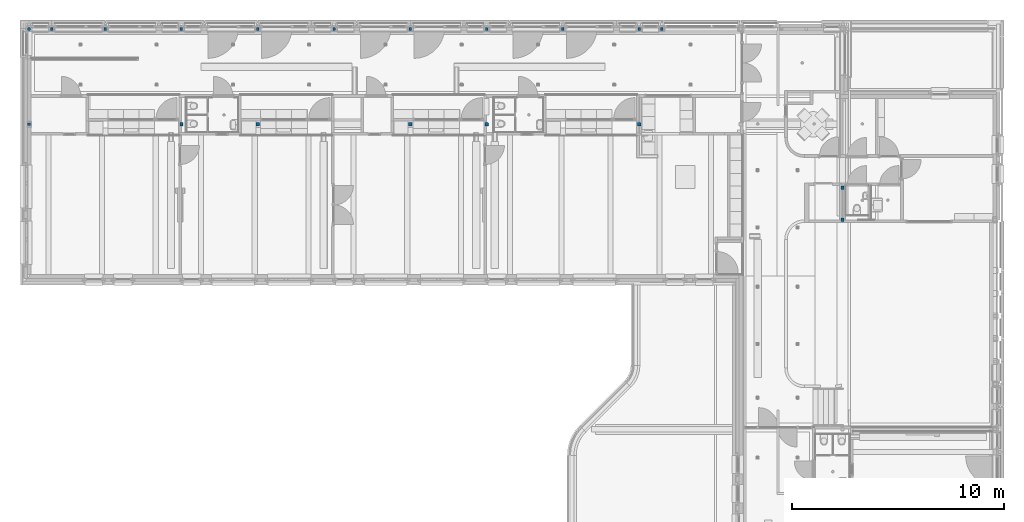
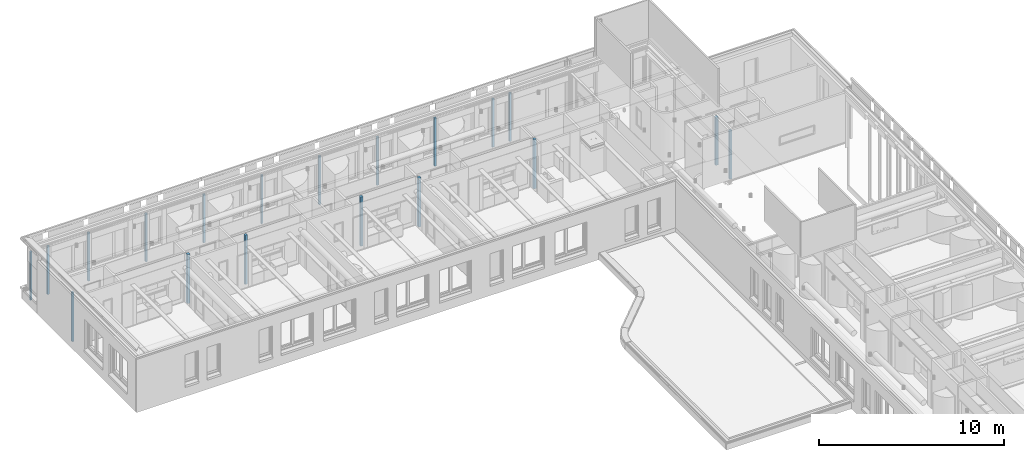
# One storey, part 3 of 128: 20 columns.
"""IFC2X3 building model written with IfcOpenShell, lengths in millimetres."""

from ifc_helpers import new_model, entity, si_unit, converted_unit, derived_unit, direction, frame, frame_2d, origin, place, context, subcontext, project, spatial, polyline, circle_curve, parameter, trimmed, segment, composite_curve, outline, extrude, source, transform, mapped, material, material_list, type_object, type_shapes, element, save


model = new_model("IFC2X3")

# Units and contexts
model_context = context("Model", 3, precision=0.01, world=origin(), true_north=direction((6.123031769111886e-17, 1.0)))
body_context = subcontext(model_context, "Body", "Model", "MODEL_VIEW")
ifc_project = project(units=[si_unit("LENGTHUNIT", "METRE", prefix="MILLI"), si_unit("AREAUNIT", "SQUARE_METRE"), si_unit("VOLUMEUNIT", "CUBIC_METRE"), converted_unit("PLANEANGLEUNIT", "DEGREE", entity("IfcRatioMeasure", 0.017453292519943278), si_unit("PLANEANGLEUNIT", "RADIAN"), dimensions=[0, 0, 0, 0, 0, 0, 0]), si_unit("MASSUNIT", "GRAM", prefix="KILO"), derived_unit("MASSDENSITYUNIT", [(si_unit("MASSUNIT", "GRAM", prefix="KILO"), 1), (si_unit("LENGTHUNIT", "METRE"), -3)]), derived_unit("IONCONCENTRATIONUNIT", [(si_unit("MASSUNIT", "GRAM", prefix="KILO"), 1), (si_unit("LENGTHUNIT", "METRE"), -3)]), derived_unit("MOMENTOFINERTIAUNIT", [(si_unit("LENGTHUNIT", "METRE"), 4)]), si_unit("TIMEUNIT", "SECOND"), si_unit("FREQUENCYUNIT", "HERTZ"), si_unit("THERMODYNAMICTEMPERATUREUNIT", "DEGREE_CELSIUS"), derived_unit("THERMALTRANSMITTANCEUNIT", [(si_unit("MASSUNIT", "GRAM", prefix="KILO"), 1), (si_unit("THERMODYNAMICTEMPERATUREUNIT", "KELVIN"), -1), (si_unit("TIMEUNIT", "SECOND"), -3)]), derived_unit("THERMALCONDUCTANCEUNIT", [(si_unit("MASSUNIT", "GRAM", prefix="KILO"), 1), (si_unit("THERMODYNAMICTEMPERATUREUNIT", "KELVIN"), -1), (si_unit("TIMEUNIT", "SECOND"), -3), (si_unit("LENGTHUNIT", "METRE"), 1)]), derived_unit("VOLUMETRICFLOWRATEUNIT", [(si_unit("LENGTHUNIT", "METRE"), 3), (si_unit("TIMEUNIT", "SECOND"), -1)]), derived_unit("MASSFLOWRATEUNIT", [(si_unit("MASSUNIT", "GRAM", prefix="KILO"), 1), (si_unit("TIMEUNIT", "SECOND"), -1)]), derived_unit("ROTATIONALFREQUENCYUNIT", [(si_unit("TIMEUNIT", "SECOND"), -1)]), si_unit("ELECTRICCURRENTUNIT", "AMPERE"), si_unit("ELECTRICVOLTAGEUNIT", "VOLT"), si_unit("POWERUNIT", "WATT"), si_unit("FORCEUNIT", "NEWTON", prefix="KILO"), si_unit("ILLUMINANCEUNIT", "LUX"), si_unit("LUMINOUSFLUXUNIT", "LUMEN"), si_unit("LUMINOUSINTENSITYUNIT", "CANDELA"), derived_unit("USERDEFINED", [(si_unit("MASSUNIT", "GRAM", prefix="KILO"), -1), (si_unit("LENGTHUNIT", "METRE"), -2), (si_unit("TIMEUNIT", "SECOND"), 3), (si_unit("LUMINOUSFLUXUNIT", "LUMEN"), 1)]), derived_unit("USERDEFINED", [(si_unit("MASSUNIT", "GRAM", prefix="KILO"), 1), (si_unit("TIMEUNIT", "SECOND"), -3), (si_unit("LENGTHUNIT", "METRE"), 3), (si_unit("ELECTRICCURRENTUNIT", "AMPERE"), -2)]), derived_unit("SOUNDPOWERUNIT", [(si_unit("MASSUNIT", "GRAM", prefix="KILO"), 1), (si_unit("TIMEUNIT", "SECOND"), -3), (si_unit("LENGTHUNIT", "METRE"), 2)]), derived_unit("SOUNDPRESSUREUNIT", [(si_unit("MASSUNIT", "GRAM", prefix="KILO"), 1), (si_unit("LENGTHUNIT", "METRE"), -1), (si_unit("TIMEUNIT", "SECOND"), -2)]), derived_unit("LINEARVELOCITYUNIT", [(si_unit("LENGTHUNIT", "METRE"), 1), (si_unit("TIMEUNIT", "SECOND"), -1)]), si_unit("PRESSUREUNIT", "PASCAL"), derived_unit("USERDEFINED", [(si_unit("MASSUNIT", "GRAM", prefix="KILO"), 1), (si_unit("LENGTHUNIT", "METRE"), -2), (si_unit("TIMEUNIT", "SECOND"), -2)]), derived_unit("LINEARFORCEUNIT", [(si_unit("MASSUNIT", "GRAM", prefix="KILO"), 1), (si_unit("TIMEUNIT", "SECOND"), -2)]), derived_unit("PLANARFORCEUNIT", [(si_unit("MASSUNIT", "GRAM", prefix="KILO"), 1), (si_unit("LENGTHUNIT", "METRE"), -1), (si_unit("TIMEUNIT", "SECOND"), -2)]), derived_unit("SPECIFICHEATCAPACITYUNIT", [(si_unit("THERMODYNAMICTEMPERATUREUNIT", "KELVIN"), -1), (si_unit("LENGTHUNIT", "METRE"), 2), (si_unit("TIMEUNIT", "SECOND"), -2)]), derived_unit("HEATINGVALUEUNIT", [(si_unit("LENGTHUNIT", "METRE"), 2), (si_unit("TIMEUNIT", "SECOND"), -2)]), derived_unit("VAPORPERMEABILITYUNIT", [(si_unit("LENGTHUNIT", "METRE"), -1), (si_unit("TIMEUNIT", "SECOND"), 1)]), derived_unit("DYNAMICVISCOSITYUNIT", [(si_unit("MASSUNIT", "GRAM", prefix="KILO"), 1), (si_unit("TIMEUNIT", "SECOND"), -1), (si_unit("LENGTHUNIT", "METRE"), -1)]), derived_unit("THERMALEXPANSIONCOEFFICIENTUNIT", [(si_unit("THERMODYNAMICTEMPERATUREUNIT", "KELVIN"), -1)]), derived_unit("MODULUSOFELASTICITYUNIT", [(si_unit("MASSUNIT", "GRAM", prefix="KILO"), 1), (si_unit("LENGTHUNIT", "METRE"), -1), (si_unit("TIMEUNIT", "SECOND"), -2)]), derived_unit("ISOTHERMALMOISTURECAPACITYUNIT", [(si_unit("LENGTHUNIT", "METRE"), 3), (si_unit("MASSUNIT", "GRAM", prefix="KILO"), -1)]), derived_unit("MOISTUREDIFFUSIVITYUNIT", [(si_unit("TIMEUNIT", "SECOND"), -1), (si_unit("LENGTHUNIT", "METRE"), 2)])], contexts=[model_context])

# Site, building, storey
site_placement = place(None, frame((0.0, 300.0, 0.0)))
site = spatial("IfcSite", under=ifc_project, at=site_placement, Name="<Kadastrale nummers>", CompositionType="ELEMENT")
building_placement = place(site_placement, origin())
building = spatial("IfcBuilding", under=site, at=building_placement, CompositionType="ELEMENT")
storey_placement = place(building_placement, frame((0.0, 0.0, 3560.0000331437)))
storey = spatial("IfcBuildingStorey", under=building, at=storey_placement, Name="01 eerste verdieping", CompositionType="ELEMENT", Elevation=3560.0000331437)

# Columns
ifc_material_1 = material(Name="f2_beton")
ifc_material_2 = material(Name="h2_staal")
ifc_material_list = material_list([ifc_material_1, ifc_material_2])
column_type_1 = type_object("IfcColumnType", Name="NLRS_28_SCO_TLB_kolom koker betongevuld_gen_ASN:kolom betongevuld K120x120x5", PredefinedType="COLUMN", material=ifc_material_list)
shared_shape_1 = source(origin(), body_context, "Body", "SweptSolid", [
    extrude(outline(composite_curve([segment(polyline([(-50.0, -55.0), (50.0, -55.0)]), True, "CONTINUOUS"), segment(trimmed(circle_curve(frame_2d((50.0, -50.0), x_axis=(-1.0, 0.0)), 4.999999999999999), [parameter(90.00000000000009)], [parameter(179.9999999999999)], True, "PARAMETER"), True, "CONTINUOUS"), segment(polyline([(55.0, -50.0), (55.0, 50.0)]), True, "CONTINUOUS"), segment(trimmed(circle_curve(frame_2d((50.0, 50.0), x_axis=(-1.0, 0.0)), 4.999999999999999), [parameter(180.0000000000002)], [parameter(269.9999999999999)], True, "PARAMETER"), True, "CONTINUOUS"), segment(polyline([(50.0, 55.0), (-50.0, 55.0)]), True, "CONTINUOUS"), segment(trimmed(circle_curve(frame_2d((-50.0, 50.0), x_axis=(-1.0, 0.0)), 4.999999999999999), [parameter(269.99999999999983)], [parameter(359.9999999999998)], True, "PARAMETER"), True, "CONTINUOUS"), segment(polyline([(-55.0, 50.0), (-55.0, -50.0)]), True, "CONTINUOUS"), segment(trimmed(circle_curve(frame_2d((-50.0, -50.0), x_axis=(-1.0, 0.0)), 4.999999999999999), [parameter(0.0)], [parameter(89.99999999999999)], True, "PARAMETER"), True, "CONTINUOUS")], self_intersect=False)), frame((0.0, 0.0, 3650.0000350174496), z_axis=(0.0, 0.0, 1.0), x_axis=(-1.0, 0.0, 0.0)), (0.0, 0.0, 1.0), 3180.00002051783),
    extrude(outline(composite_curve([segment(trimmed(circle_curve(frame_2d((51.0, 51.0), x_axis=(1.0, 0.0)), 9.0), [parameter(359.9999999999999)], [parameter(89.99999999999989)], True, "PARAMETER"), True, "CONTINUOUS"), segment(polyline([(51.0, 60.0), (-51.0, 60.0)]), True, "CONTINUOUS"), segment(trimmed(circle_curve(frame_2d((-51.0, 51.0), x_axis=(1.0, 0.0)), 9.0), [parameter(90.00000000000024)], [parameter(180.0000000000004)], True, "PARAMETER"), True, "CONTINUOUS"), segment(polyline([(-60.0, 51.0), (-60.0, -51.0)]), True, "CONTINUOUS"), segment(trimmed(circle_curve(frame_2d((-51.0, -51.0), x_axis=(1.0, 0.0)), 9.0), [parameter(179.99999999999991)], [parameter(269.9999999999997)], True, "PARAMETER"), True, "CONTINUOUS"), segment(polyline([(-51.0, -60.0), (51.0, -60.0)]), True, "CONTINUOUS"), segment(trimmed(circle_curve(frame_2d((51.0, -51.0), x_axis=(1.0, 0.0)), 9.0), [parameter(270.00000000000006)], [parameter(2.544443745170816e-13)], True, "PARAMETER"), True, "CONTINUOUS"), segment(polyline([(60.0, -51.0), (60.0, 51.0)]), True, "CONTINUOUS")], self_intersect=False), holes=[composite_curve([segment(polyline([(-51.0, 55.0), (51.0, 55.0)]), True, "CONTINUOUS"), segment(trimmed(circle_curve(frame_2d((51.0, 51.0), x_axis=(1.0, 0.0)), 4.0), [parameter(359.9999999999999)], [parameter(90.00000000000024)], True, "PARAMETER"), False, "CONTINUOUS"), segment(polyline([(55.0, 51.0), (55.0, -51.0)]), True, "CONTINUOUS"), segment(trimmed(circle_curve(frame_2d((51.0, -51.0), x_axis=(1.0, 0.0)), 4.0), [parameter(269.9999999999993)], [parameter(359.9999999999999)], True, "PARAMETER"), False, "CONTINUOUS"), segment(polyline([(51.0, -55.0), (-51.0, -55.0)]), True, "CONTINUOUS"), segment(trimmed(circle_curve(frame_2d((-51.0, -51.0), x_axis=(1.0, 0.0)), 4.0), [parameter(179.99999999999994)], [parameter(269.99999999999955)], True, "PARAMETER"), False, "CONTINUOUS"), segment(polyline([(-55.0, -51.0), (-55.0, 51.0)]), True, "CONTINUOUS"), segment(trimmed(circle_curve(frame_2d((-51.0, 51.0), x_axis=(1.0, 0.0)), 4.0), [parameter(89.99999999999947)], [parameter(179.9999999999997)], True, "PARAMETER"), False, "CONTINUOUS")], self_intersect=False)]), frame((0.0, 0.0, 3650.0000350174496), z_axis=(0.0, 0.0, 1.0), x_axis=(-1.0, 0.0, 0.0)), (0.0, 0.0, 1.0), 3180.00002051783),
])
type_shapes(column_type_1, [shared_shape_1])
for number, where, z_axis, x_axis, name in (
    (1, (4070.0, 49800.0, -3560.0000331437), (0.0, 0.0, 1.0), (0.0, -1.0, 0.0), "NLRS_28_SCO_TLB_kolom koker betongevuld_gen_ASN:kolom betongevuld K120x120x5"),
    (2, (6600.0, 49800.0, -3560.0000331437), (0.0, 0.0, 1.0), (0.0, -1.0, 0.0), "NLRS_28_SCO_TLB_kolom koker betongevuld_gen_ASN:kolom betongevuld K120x120x5"),
    (3, (10193.747222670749, 49800.0, -3560.0000331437), (0.0, 0.0, 1.0), (0.0, -1.0, 0.0), "NLRS_28_SCO_TLB_kolom koker betongevuld_gen_ASN:kolom betongevuld K120x120x5"),
    (4, (13793.747222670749, 49800.0, -3560.0000331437), (0.0, 0.0, 1.0), (0.0, -1.0, 0.0), "NLRS_28_SCO_TLB_kolom koker betongevuld_gen_ASN:kolom betongevuld K120x120x5"),
    (5, (17400.0, 49800.0, -3560.0000331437), (0.0, 0.0, 1.0), (0.0, -1.0, 0.0), "NLRS_28_SCO_TLB_kolom koker betongevuld_gen_ASN:kolom betongevuld K120x120x5"),
    (6, (21000.0, 49800.0, -3560.0000331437), (0.0, 0.0, 1.0), (0.0, -1.0, 0.0), "NLRS_28_SCO_TLB_kolom koker betongevuld_gen_ASN:kolom betongevuld K120x120x5"),
    (7, (24600.0, 49800.0, -3560.0000331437), (0.0, 0.0, 1.0), (0.0, -1.0, 0.0), "NLRS_28_SCO_TLB_kolom koker betongevuld_gen_ASN:kolom betongevuld K120x120x5"),
    (8, (31800.0, 49800.0, -3560.0000331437), (0.0, 0.0, 1.0), (0.0, -1.0, 0.0), "NLRS_28_SCO_TLB_kolom koker betongevuld_gen_ASN:kolom betongevuld K120x120x5"),
    (9, (32870.0, 49800.0, -3560.0000331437), (0.0, 0.0, 1.0), (0.0, -1.0, 0.0), "NLRS_28_SCO_TLB_kolom koker betongevuld_gen_ASN:kolom betongevuld K120x120x5"),
    (10, (3000.0, 49800.0, -3560.0000331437), (0.0, 0.0, 1.0), (0.0, -1.0, 0.0), "NLRS_28_SCO_TLB_kolom koker betongevuld_gen_ASN:kolom betongevuld K120x120x5"),
    (11, (28200.0, 49800.0, -3560.0000331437), (0.0, 0.0, 1.0), (0.0, -1.0, 0.0), "NLRS_28_SCO_TLB_kolom koker betongevuld_gen_ASN:kolom betongevuld K120x120x5"),
):
    element("IfcColumn", number, at=place(storey_placement, frame(where, z_axis=z_axis, x_axis=x_axis)), inside=storey, type_object=column_type_1, material=ifc_material_list, Name=name, ObjectType="NLRS_28_SCO_TLB_kolom koker betongevuld_gen_ASN:kolom betongevuld K120x120x5", context=body_context, shape_type="MappedRepresentation", body=[
        mapped(shared_shape_1, transform((0.0, 0.0, 0.0), scale=1.0)),
    ])
column_type_2 = type_object("IfcColumnType", Name="NLRS_28_SCO_TLB_kolom koker betongevuld_gen_ASN:kolom betongevuld K120x120x6.3", PredefinedType="COLUMN", material=ifc_material_list)
shared_shape_2 = source(origin(), body_context, "Body", "SweptSolid", [
    extrude(outline(composite_curve([segment(polyline([(-48.700000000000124, -53.69999999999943), (48.69999999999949, -53.69999999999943)]), True, "CONTINUOUS"), segment(trimmed(circle_curve(frame_2d((48.69999999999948, -48.69999999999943), x_axis=(-1.0, 0.0)), 4.999999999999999), [parameter(90.00000000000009)], [parameter(179.9999999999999)], True, "PARAMETER"), True, "CONTINUOUS"), segment(polyline([(53.699999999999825, -48.69999999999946), (53.70000000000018, 48.699999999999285)]), True, "CONTINUOUS"), segment(trimmed(circle_curve(frame_2d((48.70000000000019, 48.69999999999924), x_axis=(-1.0, 0.0)), 4.999999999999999), [parameter(180.0000000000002)], [parameter(269.9999999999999)], True, "PARAMETER"), True, "CONTINUOUS"), segment(polyline([(48.700000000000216, 53.699999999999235), (-48.699999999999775, 53.69999999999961)]), True, "CONTINUOUS"), segment(trimmed(circle_curve(frame_2d((-48.69999999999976, 48.69999999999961), x_axis=(-1.0, 0.0)), 4.999999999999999), [parameter(269.9999999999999)], [parameter(0.0)], True, "PARAMETER"), True, "CONTINUOUS"), segment(polyline([(-53.69999999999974, 48.69999999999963), (-53.700000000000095, -48.69999999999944)]), True, "CONTINUOUS"), segment(trimmed(circle_curve(frame_2d((-48.7000000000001, -48.69999999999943), x_axis=(-1.0, 0.0)), 4.999999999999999), [parameter(0.0)], [parameter(90.00000000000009)], True, "PARAMETER"), True, "CONTINUOUS")], self_intersect=False)), frame((0.0, 0.0, 3650.0000350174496), z_axis=(0.0, 0.0, 1.0), x_axis=(-1.0, 0.0, 0.0)), (0.0, 0.0, 1.0), 3240.000000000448),
    extrude(outline(composite_curve([segment(trimmed(circle_curve(frame_2d((51.0, 51.0), x_axis=(1.0, 0.0)), 9.0), [parameter(359.9999999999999)], [parameter(89.99999999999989)], True, "PARAMETER"), True, "CONTINUOUS"), segment(polyline([(51.0, 60.0), (-51.0, 60.0)]), True, "CONTINUOUS"), segment(trimmed(circle_curve(frame_2d((-51.0, 51.0), x_axis=(1.0, 0.0)), 9.0), [parameter(90.00000000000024)], [parameter(180.0000000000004)], True, "PARAMETER"), True, "CONTINUOUS"), segment(polyline([(-60.0, 51.0), (-60.0, -51.0)]), True, "CONTINUOUS"), segment(trimmed(circle_curve(frame_2d((-51.0, -51.0), x_axis=(1.0, 0.0)), 9.0), [parameter(179.99999999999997)], [parameter(269.9999999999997)], True, "PARAMETER"), True, "CONTINUOUS"), segment(polyline([(-51.0, -60.0), (51.0, -60.0)]), True, "CONTINUOUS"), segment(trimmed(circle_curve(frame_2d((51.0, -51.0), x_axis=(1.0, 0.0)), 9.0), [parameter(270.00000000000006)], [parameter(3.053332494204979e-13)], True, "PARAMETER"), True, "CONTINUOUS"), segment(polyline([(60.0, -51.0), (60.0, 51.0)]), True, "CONTINUOUS")], self_intersect=False), holes=[composite_curve([segment(polyline([(-51.0, 53.699999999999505), (51.0, 53.699999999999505)]), True, "CONTINUOUS"), segment(trimmed(circle_curve(frame_2d((51.0, 51.0), x_axis=(1.0, 0.0)), 2.7000000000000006), [parameter(359.9999999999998)], [parameter(90.00000000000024)], True, "PARAMETER"), False, "CONTINUOUS"), segment(polyline([(53.69999999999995, 51.0), (53.69999999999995, -51.0)]), True, "CONTINUOUS"), segment(trimmed(circle_curve(frame_2d((51.0, -51.0), x_axis=(1.0, 0.0)), 2.7000000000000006), [parameter(269.9999999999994)], [parameter(359.9999999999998)], True, "PARAMETER"), False, "CONTINUOUS"), segment(polyline([(51.0, -53.69999999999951), (-51.0, -53.69999999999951)]), True, "CONTINUOUS"), segment(trimmed(circle_curve(frame_2d((-51.0, -51.0), x_axis=(1.0, 0.0)), 2.7000000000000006), [parameter(180.0)], [parameter(269.9999999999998)], True, "PARAMETER"), False, "CONTINUOUS"), segment(polyline([(-53.699999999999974, -51.0), (-53.699999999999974, 51.0)]), True, "CONTINUOUS"), segment(trimmed(circle_curve(frame_2d((-51.0, 51.0), x_axis=(1.0, 0.0)), 2.7000000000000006), [parameter(89.99999999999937)], [parameter(179.99999999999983)], True, "PARAMETER"), False, "CONTINUOUS")], self_intersect=False)]), frame((0.0, 0.0, 3650.0000350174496), z_axis=(0.0, 0.0, 1.0), x_axis=(-1.0, 0.0, 0.0)), (0.0, 0.0, 1.0), 3240.000000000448),
])
type_shapes(column_type_2, [shared_shape_2])
column_1_placement = place(storey_placement, frame((3000.0, 45300.0, -3560.0000331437), z_axis=(0.0, 0.0, 1.0), x_axis=(0.0, -1.0, 0.0)))
element("IfcColumn", 12, at=column_1_placement, inside=storey, type_object=column_type_2, material=ifc_material_list, Name="NLRS_28_SCO_TLB_kolom koker betongevuld_gen_ASN:kolom betongevuld K120x120x6.3", ObjectType="NLRS_28_SCO_TLB_kolom koker betongevuld_gen_ASN:kolom betongevuld K120x120x6.3", context=body_context, shape_type="MappedRepresentation", body=[
    mapped(shared_shape_2, transform((0.0, 0.0, 0.0), scale=1.0)),
])
column_type_3 = type_object("IfcColumnType", Name="NLRS_28_SCO_TLB_kolom koker betongevuld_gen_ASN:kolom betongevuld K160x160x6.3", PredefinedType="COLUMN", material=ifc_material_list)
shared_shape_3 = source(origin(), body_context, "Body", "SweptSolid", [
    extrude(outline(composite_curve([segment(polyline([(-68.70000000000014, -73.69999999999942), (68.6999999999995, -73.69999999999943)]), True, "CONTINUOUS"), segment(trimmed(circle_curve(frame_2d((68.69999999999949, -68.69999999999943), x_axis=(-1.0, 0.0)), 4.999999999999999), [parameter(90.00000000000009)], [parameter(179.9999999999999)], True, "PARAMETER"), True, "CONTINUOUS"), segment(polyline([(73.69999999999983, -68.69999999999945), (73.7000000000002, 68.69999999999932)]), True, "CONTINUOUS"), segment(trimmed(circle_curve(frame_2d((68.70000000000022, 68.69999999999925), x_axis=(-1.0, 0.0)), 4.999999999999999), [parameter(180.0000000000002)], [parameter(269.9999999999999)], True, "PARAMETER"), True, "CONTINUOUS"), segment(polyline([(68.70000000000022, 73.69999999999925), (-68.69999999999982, 73.69999999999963)]), True, "CONTINUOUS"), segment(trimmed(circle_curve(frame_2d((-68.69999999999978, 68.69999999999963), x_axis=(-1.0, 0.0)), 4.999999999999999), [parameter(269.9999999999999)], [parameter(0.0)], True, "PARAMETER"), True, "CONTINUOUS"), segment(polyline([(-73.69999999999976, 68.69999999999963), (-73.70000000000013, -68.69999999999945)]), True, "CONTINUOUS"), segment(trimmed(circle_curve(frame_2d((-68.70000000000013, -68.69999999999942), x_axis=(-1.0, 0.0)), 4.999999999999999), [parameter(0.0)], [parameter(90.00000000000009)], True, "PARAMETER"), True, "CONTINUOUS")], self_intersect=False)), frame((0.0, 0.0, 3650.0000350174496), z_axis=(0.0, 0.0, 1.0), x_axis=(-1.0, 0.0, 0.0)), (0.0, 0.0, 1.0), 3240.000000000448),
    extrude(outline(composite_curve([segment(trimmed(circle_curve(frame_2d((67.0, 67.0), x_axis=(1.0, 0.0)), 13.000000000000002), [parameter(359.9999999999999)], [parameter(89.99999999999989)], True, "PARAMETER"), True, "CONTINUOUS"), segment(polyline([(67.0, 80.0), (-67.0, 80.0)]), True, "CONTINUOUS"), segment(trimmed(circle_curve(frame_2d((-67.0, 67.0), x_axis=(1.0, 0.0)), 13.000000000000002), [parameter(90.00000000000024)], [parameter(180.0000000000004)], True, "PARAMETER"), True, "CONTINUOUS"), segment(polyline([(-80.0, 67.0), (-80.0, -67.0)]), True, "CONTINUOUS"), segment(trimmed(circle_curve(frame_2d((-67.0, -67.0), x_axis=(1.0, 0.0)), 13.000000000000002), [parameter(179.99999999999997)], [parameter(269.9999999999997)], True, "PARAMETER"), True, "CONTINUOUS"), segment(polyline([(-67.0, -80.0), (67.0, -80.0)]), True, "CONTINUOUS"), segment(trimmed(circle_curve(frame_2d((67.0, -67.0), x_axis=(1.0, 0.0)), 13.000000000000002), [parameter(270.00000000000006)], [parameter(3.053332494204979e-13)], True, "PARAMETER"), True, "CONTINUOUS"), segment(polyline([(80.0, -67.0), (80.0, 67.0)]), True, "CONTINUOUS")], self_intersect=False), holes=[composite_curve([segment(polyline([(-67.0, 73.69999999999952), (67.0, 73.69999999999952)]), True, "CONTINUOUS"), segment(trimmed(circle_curve(frame_2d((67.0, 67.0), x_axis=(1.0, 0.0)), 6.700000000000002), [parameter(359.99999999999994)], [parameter(90.00000000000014)], True, "PARAMETER"), False, "CONTINUOUS"), segment(polyline([(73.69999999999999, 67.0), (73.69999999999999, -67.0)]), True, "CONTINUOUS"), segment(trimmed(circle_curve(frame_2d((67.0, -67.0), x_axis=(1.0, 0.0)), 6.700000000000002), [parameter(269.9999999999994)], [parameter(359.99999999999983)], True, "PARAMETER"), False, "CONTINUOUS"), segment(polyline([(67.0, -73.69999999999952), (-67.0, -73.69999999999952)]), True, "CONTINUOUS"), segment(trimmed(circle_curve(frame_2d((-67.0, -67.0), x_axis=(1.0, 0.0)), 6.700000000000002), [parameter(180.0000000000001)], [parameter(269.9999999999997)], True, "PARAMETER"), False, "CONTINUOUS"), segment(polyline([(-73.69999999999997, -67.0), (-73.69999999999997, 67.0)]), True, "CONTINUOUS"), segment(trimmed(circle_curve(frame_2d((-67.0, 67.0), x_axis=(1.0, 0.0)), 6.700000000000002), [parameter(89.99999999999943)], [parameter(179.99999999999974)], True, "PARAMETER"), False, "CONTINUOUS")], self_intersect=False)]), frame((0.0, 0.0, 3650.0000350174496), z_axis=(0.0, 0.0, 1.0), x_axis=(-1.0, 0.0, 0.0)), (0.0, 0.0, 1.0), 3240.000000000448),
])
type_shapes(column_type_3, [shared_shape_3])
for number, where, z_axis, x_axis, name in (
    (13, (31800.0, 45300.0, -3560.0000331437), (0.0, 0.0, 1.0), (0.0, -1.0, 0.0), "NLRS_28_SCO_TLB_kolom koker betongevuld_gen_ASN:kolom betongevuld K160x160x6.3"),
    (14, (24600.0, 45300.0, -3560.0000331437), (0.0, 0.0, 1.0), (0.0, -1.0, 0.0), "NLRS_28_SCO_TLB_kolom koker betongevuld_gen_ASN:kolom betongevuld K160x160x6.3"),
    (15, (21000.0, 45300.0, -3560.0000331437), (0.0, 0.0, 1.0), (0.0, -1.0, 0.0), "NLRS_28_SCO_TLB_kolom koker betongevuld_gen_ASN:kolom betongevuld K160x160x6.3"),
    (16, (13800.0, 45300.0, -3560.0000331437), (0.0, 0.0, 1.0), (0.0, -1.0, 0.0), "NLRS_28_SCO_TLB_kolom koker betongevuld_gen_ASN:kolom betongevuld K160x160x6.3"),
    (17, (10200.0, 45300.0, -3560.0000331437), (0.0, 0.0, 1.0), (0.0, -1.0, 0.0), "NLRS_28_SCO_TLB_kolom koker betongevuld_gen_ASN:kolom betongevuld K160x160x6.3"),
):
    element("IfcColumn", number, at=place(storey_placement, frame(where, z_axis=z_axis, x_axis=x_axis)), inside=storey, type_object=column_type_3, material=ifc_material_list, Name=name, ObjectType="NLRS_28_SCO_TLB_kolom koker betongevuld_gen_ASN:kolom betongevuld K160x160x6.3", context=body_context, shape_type="MappedRepresentation", body=[
        mapped(shared_shape_3, transform((0.0, 0.0, 0.0), scale=1.0)),
    ])
column_type_4 = type_object("IfcColumnType", Name="NLRS_28_SCO_TLB_kolom koker betongevuld_gen_ASN:kolom betongevuld K160x160x6.3", PredefinedType="COLUMN", material=ifc_material_list)
shared_shape_4 = source(origin(), body_context, "Body", "SweptSolid", [
    extrude(outline(composite_curve([segment(polyline([(-68.70000000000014, -73.69999999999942), (68.6999999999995, -73.69999999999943)]), True, "CONTINUOUS"), segment(trimmed(circle_curve(frame_2d((68.69999999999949, -68.69999999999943), x_axis=(-1.0, 0.0)), 4.999999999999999), [parameter(90.00000000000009)], [parameter(179.9999999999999)], True, "PARAMETER"), True, "CONTINUOUS"), segment(polyline([(73.69999999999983, -68.69999999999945), (73.7000000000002, 68.69999999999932)]), True, "CONTINUOUS"), segment(trimmed(circle_curve(frame_2d((68.70000000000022, 68.69999999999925), x_axis=(-1.0, 0.0)), 4.999999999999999), [parameter(180.0000000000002)], [parameter(269.9999999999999)], True, "PARAMETER"), True, "CONTINUOUS"), segment(polyline([(68.70000000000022, 73.69999999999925), (-68.69999999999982, 73.69999999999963)]), True, "CONTINUOUS"), segment(trimmed(circle_curve(frame_2d((-68.69999999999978, 68.69999999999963), x_axis=(-1.0, 0.0)), 4.999999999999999), [parameter(269.9999999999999)], [parameter(0.0)], True, "PARAMETER"), True, "CONTINUOUS"), segment(polyline([(-73.69999999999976, 68.69999999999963), (-73.70000000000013, -68.69999999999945)]), True, "CONTINUOUS"), segment(trimmed(circle_curve(frame_2d((-68.70000000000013, -68.69999999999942), x_axis=(-1.0, 0.0)), 4.999999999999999), [parameter(0.0)], [parameter(90.00000000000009)], True, "PARAMETER"), True, "CONTINUOUS")], self_intersect=False)), frame((0.0, 0.0, 3650.0000350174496), z_axis=(0.0, 0.0, 1.0), x_axis=(-1.0, 0.0, 0.0)), (0.0, 0.0, 1.0), 3180.00002051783),
    extrude(outline(composite_curve([segment(trimmed(circle_curve(frame_2d((67.0, 67.0), x_axis=(1.0, 0.0)), 13.000000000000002), [parameter(359.9999999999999)], [parameter(89.99999999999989)], True, "PARAMETER"), True, "CONTINUOUS"), segment(polyline([(67.0, 80.0), (-67.0, 80.0)]), True, "CONTINUOUS"), segment(trimmed(circle_curve(frame_2d((-67.0, 67.0), x_axis=(1.0, 0.0)), 13.000000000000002), [parameter(90.00000000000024)], [parameter(180.0000000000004)], True, "PARAMETER"), True, "CONTINUOUS"), segment(polyline([(-80.0, 67.0), (-80.0, -67.0)]), True, "CONTINUOUS"), segment(trimmed(circle_curve(frame_2d((-67.0, -67.0), x_axis=(1.0, 0.0)), 13.000000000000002), [parameter(179.99999999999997)], [parameter(269.9999999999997)], True, "PARAMETER"), True, "CONTINUOUS"), segment(polyline([(-67.0, -80.0), (67.0, -80.0)]), True, "CONTINUOUS"), segment(trimmed(circle_curve(frame_2d((67.0, -67.0), x_axis=(1.0, 0.0)), 13.000000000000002), [parameter(270.00000000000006)], [parameter(3.053332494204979e-13)], True, "PARAMETER"), True, "CONTINUOUS"), segment(polyline([(80.0, -67.0), (80.0, 67.0)]), True, "CONTINUOUS")], self_intersect=False), holes=[composite_curve([segment(polyline([(-67.0, 73.69999999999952), (67.0, 73.69999999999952)]), True, "CONTINUOUS"), segment(trimmed(circle_curve(frame_2d((67.0, 67.0), x_axis=(1.0, 0.0)), 6.700000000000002), [parameter(359.99999999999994)], [parameter(90.00000000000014)], True, "PARAMETER"), False, "CONTINUOUS"), segment(polyline([(73.69999999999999, 67.0), (73.69999999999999, -67.0)]), True, "CONTINUOUS"), segment(trimmed(circle_curve(frame_2d((67.0, -67.0), x_axis=(1.0, 0.0)), 6.700000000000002), [parameter(269.9999999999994)], [parameter(359.99999999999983)], True, "PARAMETER"), False, "CONTINUOUS"), segment(polyline([(67.0, -73.69999999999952), (-67.0, -73.69999999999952)]), True, "CONTINUOUS"), segment(trimmed(circle_curve(frame_2d((-67.0, -67.0), x_axis=(1.0, 0.0)), 6.700000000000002), [parameter(180.0000000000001)], [parameter(269.9999999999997)], True, "PARAMETER"), False, "CONTINUOUS"), segment(polyline([(-73.69999999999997, -67.0), (-73.69999999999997, 67.0)]), True, "CONTINUOUS"), segment(trimmed(circle_curve(frame_2d((-67.0, 67.0), x_axis=(1.0, 0.0)), 6.700000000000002), [parameter(89.99999999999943)], [parameter(179.99999999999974)], True, "PARAMETER"), False, "CONTINUOUS")], self_intersect=False)]), frame((0.0, 0.0, 3650.0000350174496), z_axis=(0.0, 0.0, 1.0), x_axis=(-1.0, 0.0, 0.0)), (0.0, 0.0, 1.0), 3180.00002051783),
])
type_shapes(column_type_4, [shared_shape_4])
for number, where, z_axis, x_axis, name in (
    (18, (41400.0, 40799.99947471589, -3560.0000331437), (0.0, 0.0, 1.0), (0.0, -1.0, 0.0), "NLRS_28_SCO_TLB_kolom koker betongevuld_gen_ASN:kolom betongevuld K160x160x6.3"),
    (19, (41400.0, 42300.0, -3560.0000331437), (0.0, 0.0, 1.0), (0.0, -1.0, 0.0), "NLRS_28_SCO_TLB_kolom koker betongevuld_gen_ASN:kolom betongevuld K160x160x6.3"),
):
    element("IfcColumn", number, at=place(storey_placement, frame(where, z_axis=z_axis, x_axis=x_axis)), inside=storey, type_object=column_type_4, material=ifc_material_list, Name=name, ObjectType="NLRS_28_SCO_TLB_kolom koker betongevuld_gen_ASN:kolom betongevuld K160x160x6.3", context=body_context, shape_type="MappedRepresentation", body=[
        mapped(shared_shape_4, transform((0.0, 0.0, 0.0), scale=1.0)),
    ])
column_type_5 = type_object("IfcColumnType", Name="NLRS_28_SCO_TLB_kolom koker betongevuld_gen_ASN:kolom betongevuld K120x120x8", PredefinedType="COLUMN", material=ifc_material_list)
shared_shape_5 = source(origin(), body_context, "Body", "SweptSolid", [
    extrude(outline(composite_curve([segment(polyline([(-47.0, -52.0), (47.0, -52.0)]), True, "CONTINUOUS"), segment(trimmed(circle_curve(frame_2d((47.0, -47.0), x_axis=(-1.0, 0.0)), 4.999999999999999), [parameter(90.00000000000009)], [parameter(179.9999999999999)], True, "PARAMETER"), True, "CONTINUOUS"), segment(polyline([(52.0, -47.0), (52.0, 47.0)]), True, "CONTINUOUS"), segment(trimmed(circle_curve(frame_2d((47.0, 47.0), x_axis=(-1.0, 0.0)), 4.999999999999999), [parameter(180.0000000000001)], [parameter(269.9999999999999)], True, "PARAMETER"), True, "CONTINUOUS"), segment(polyline([(47.0, 52.0), (-47.0, 52.0)]), True, "CONTINUOUS"), segment(trimmed(circle_curve(frame_2d((-47.0, 47.0), x_axis=(-1.0, 0.0)), 4.999999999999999), [parameter(269.9999999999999)], [parameter(359.9999999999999)], True, "PARAMETER"), True, "CONTINUOUS"), segment(polyline([(-52.0, 47.0), (-52.0, -47.0)]), True, "CONTINUOUS"), segment(trimmed(circle_curve(frame_2d((-47.0, -47.0), x_axis=(-1.0, 0.0)), 4.999999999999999), [parameter(0.0)], [parameter(90.00000000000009)], True, "PARAMETER"), True, "CONTINUOUS")], self_intersect=False)), frame((0.0, 0.0, 3650.0000350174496), z_axis=(0.0, 0.0, 1.0), x_axis=(-1.0, 0.0, 0.0)), (0.0, 0.0, 1.0), 3180.00002051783),
    extrude(outline(composite_curve([segment(trimmed(circle_curve(frame_2d((51.0, 51.0), x_axis=(1.0, 0.0)), 9.0), [parameter(359.9999999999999)], [parameter(89.99999999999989)], True, "PARAMETER"), True, "CONTINUOUS"), segment(polyline([(51.0, 60.0), (-51.0, 60.0)]), True, "CONTINUOUS"), segment(trimmed(circle_curve(frame_2d((-51.0, 51.0), x_axis=(1.0, 0.0)), 9.0), [parameter(90.00000000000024)], [parameter(180.0000000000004)], True, "PARAMETER"), True, "CONTINUOUS"), segment(polyline([(-60.0, 51.0), (-60.0, -51.0)]), True, "CONTINUOUS"), segment(trimmed(circle_curve(frame_2d((-51.0, -51.0), x_axis=(1.0, 0.0)), 9.0), [parameter(179.99999999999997)], [parameter(269.9999999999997)], True, "PARAMETER"), True, "CONTINUOUS"), segment(polyline([(-51.0, -60.0), (51.0, -60.0)]), True, "CONTINUOUS"), segment(trimmed(circle_curve(frame_2d((51.0, -51.0), x_axis=(1.0, 0.0)), 9.0), [parameter(270.00000000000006)], [parameter(3.053332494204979e-13)], True, "PARAMETER"), True, "CONTINUOUS"), segment(polyline([(60.0, -51.0), (60.0, 51.0)]), True, "CONTINUOUS")], self_intersect=False), holes=[composite_curve([segment(polyline([(-51.0, 52.0), (51.0, 52.0)]), True, "CONTINUOUS"), segment(trimmed(circle_curve(frame_2d((51.0, 51.0), x_axis=(1.0, 0.0)), 1.0), [parameter(0.0)], [parameter(90.00000000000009)], True, "PARAMETER"), False, "CONTINUOUS"), segment(polyline([(52.0, 51.0), (52.0, -51.0)]), True, "CONTINUOUS"), segment(trimmed(circle_curve(frame_2d((51.0, -51.0), x_axis=(1.0, 0.0)), 1.0), [parameter(269.99999999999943)], [parameter(0.0)], True, "PARAMETER"), False, "CONTINUOUS"), segment(polyline([(51.0, -52.0), (-51.0, -52.0)]), True, "CONTINUOUS"), segment(trimmed(circle_curve(frame_2d((-51.0, -51.0), x_axis=(1.0, 0.0)), 1.0), [parameter(179.9999999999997)], [parameter(269.99999999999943)], True, "PARAMETER"), False, "CONTINUOUS"), segment(polyline([(-52.0, -51.0), (-52.0, 51.0)]), True, "CONTINUOUS"), segment(trimmed(circle_curve(frame_2d((-51.0, 51.0), x_axis=(1.0, 0.0)), 1.0), [parameter(89.99999999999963)], [parameter(179.9999999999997)], True, "PARAMETER"), False, "CONTINUOUS")], self_intersect=False)]), frame((0.0, 0.0, 3650.0000350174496), z_axis=(0.0, 0.0, 1.0), x_axis=(-1.0, 0.0, 0.0)), (0.0, 0.0, 1.0), 3180.00002051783),
])
type_shapes(column_type_5, [shared_shape_5])
column_2_placement = place(storey_placement, frame((28200.0, 49800.0, -3560.0000331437), z_axis=(0.0, 0.0, 1.0), x_axis=(0.0, -1.0, 0.0)))
element("IfcColumn", 20, at=column_2_placement, inside=storey, type_object=column_type_5, material=ifc_material_list, Name="NLRS_28_SCO_TLB_kolom koker betongevuld_gen_ASN:kolom betongevuld K120x120x8", ObjectType="NLRS_28_SCO_TLB_kolom koker betongevuld_gen_ASN:kolom betongevuld K120x120x8", context=body_context, shape_type="MappedRepresentation", body=[
    mapped(shared_shape_5, transform((0.0, 0.0, 0.0), scale=1.0)),
])

save(model, "model.ifc")
